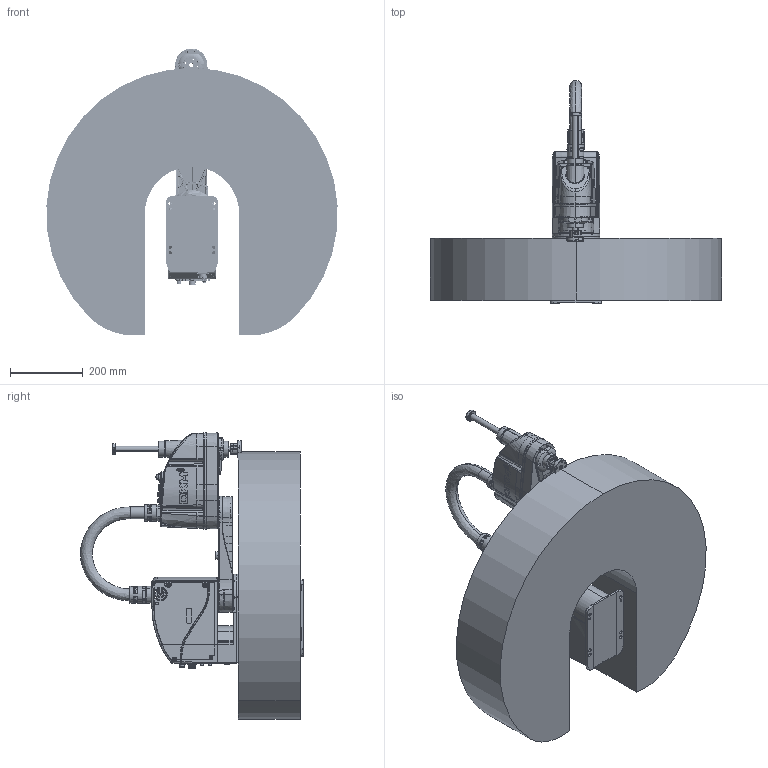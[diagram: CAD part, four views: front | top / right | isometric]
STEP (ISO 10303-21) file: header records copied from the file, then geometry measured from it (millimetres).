
FILE_DESCRIPTION (( 'STEP AP203' ), '1' );
FILE_NAME ('AH3-0400-0204-1700-V2.0.1.STEP', '2021-05-17T08:22:43', ( '' ), ( '' ), 'SwSTEP 2.0', 'SolidWorks 2017', '' );
FILE_SCHEMA (( 'CONFIG_CONTROL_DESIGN' ));
Products named in the file (7): AH3-0400-0204-1700-T6-V2.0.1; AH3-0400-0204-1700-V2.0.1; AH3-0400-0204-1700-T2-V2.0.1; AH3-0400-0204-1700-T5-V2.0.1; AH3-0400-0204-1700-T4-V2.0.1; AH3-0400-0204-1700-T3-V2.0.1; AH3-0400-0204-1700-T1-V2.0.1
Assembly tree (6 placements, depth 2):
  AH3-0400-0204-1700-V2.0.1
    AH3-0400-0204-1700-T2-V2.0.1
    AH3-0400-0204-1700-T5-V2.0.1
    AH3-0400-0204-1700-T4-V2.0.1
    AH3-0400-0204-1700-T3-V2.0.1
    AH3-0400-0204-1700-T1-V2.0.1
    AH3-0400-0204-1700-T6-V2.0.1
Bounding box: 798.74 x 611.75 x 787.44 mm (x, y, z)
Volume: 63472532.6 mm3; surface area: 2283708.7 mm2
Topology: 3 solids, 270 shells, 3497 faces, 13926 edges, 10449 vertices
Faces by surface type: cylinder 1183, plane 1103, bspline 603, cone 389, torus 173, sphere 46
Entity records: 202368 total; most frequent: CARTESIAN_POINT 96562, ORIENTED_EDGE 21132, DIRECTION 18890, EDGE_CURVE 13866, VERTEX_POINT 10449, AXIS2_PLACEMENT_3D 6977, LINE 4936, VECTOR 4936
